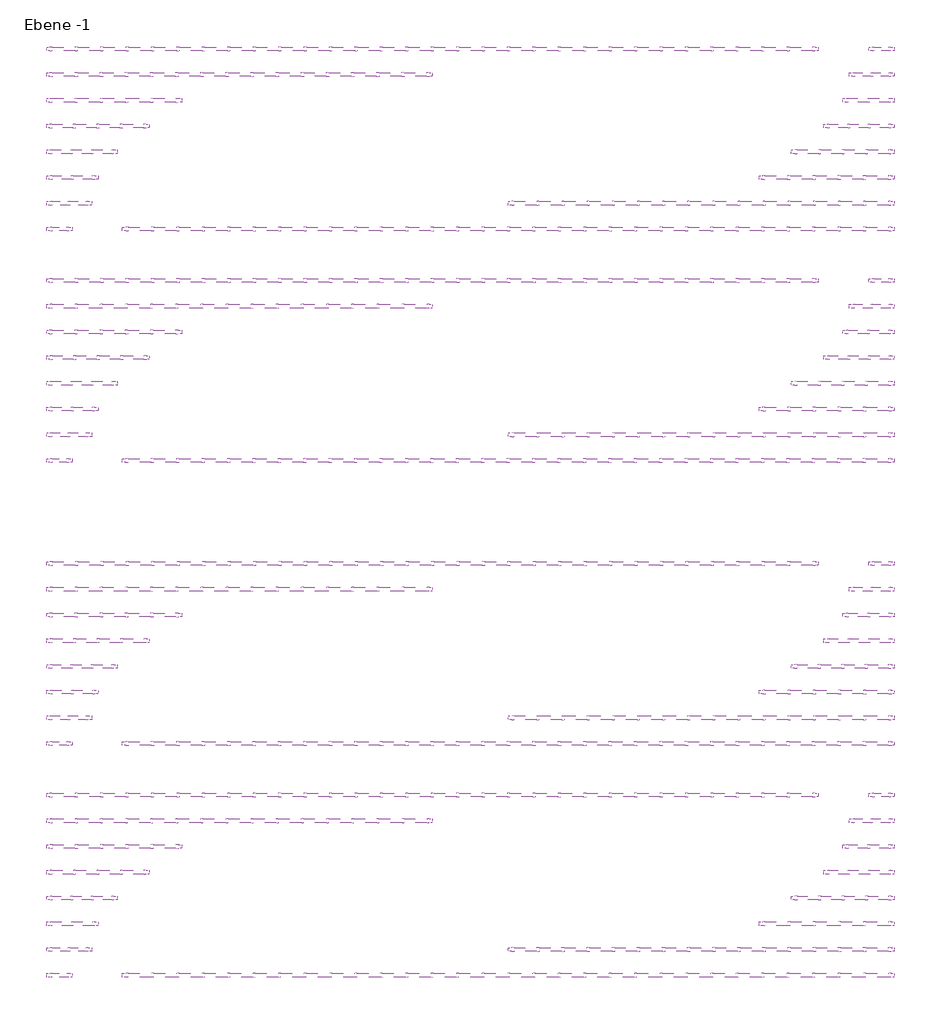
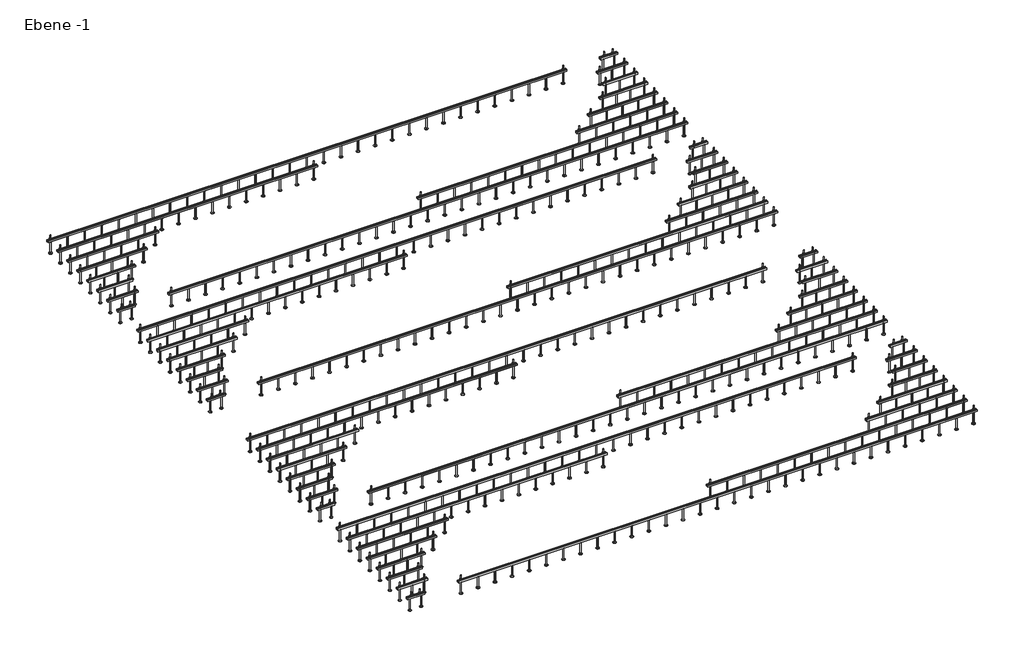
# One storey: 64 fasteners.
"""IFC4 building model written with IfcOpenShell, lengths in millimetres."""

from ifc_helpers import new_model, si_unit, origin, place, context, project, spatial, transform, mapped, element, save
from components import fastener_c0e64843, fastener_a951ed44, fastener_b79830a4, fastener_5d54877c, fastener_104148dd, fastener_9a79e27e, fastener_173d111a, fastener_f195b12c, fastener_2c23095b, fastener_91ec93cb, fastener_dfc049ad

model = new_model("IFC4")

# Units and contexts
model_context = context("Model", 3, world=origin())
ifc_project = project(units=[si_unit("LENGTHUNIT", "METRE", prefix="MILLI")], contexts=[model_context])

# Site, building, storey
site = spatial("IfcSite", under=ifc_project)
building = spatial("IfcBuilding", under=site)
storey = spatial("IfcBuildingStorey", under=building, Name="Ebene -1", Elevation=-3000.0)

# Fasteners
placement = place(None, origin())
fastener_shape = fastener_c0e64843(model_context)
element("IfcFastener", 1, ObjectType="JXA(-PC) JORDAHL® toothed channels : JXA(-PC) L=200 mm", at=placement, inside=storey, context=model_context, shape_type="MappedRepresentation", body=[
    mapped(fastener_shape, transform((-2869.3238339, 568.7317284, 0.0), x_axis=(1.0, 0.0, 0.0), y_axis=(0.0, 1.0, 0.0), z_axis=(0.0, 0.0, 1.0))),
])
element("IfcFastener", 2, ObjectType="JXA(-PC) JORDAHL® toothed channels : JXA(-PC) L=200 mm", at=placement, inside=storey, context=model_context, shape_type="MappedRepresentation", body=[
    mapped(fastener_shape, transform((3720.6761661, 1968.7317284, 0.0), x_axis=(-1.0, 0.0, 0.0), y_axis=(0.0, -1.0, 0.0), z_axis=(0.0, 0.0, 1.0))),
])
element("IfcFastener", 3, ObjectType="JXA(-PC) JORDAHL® toothed channels : JXA(-PC) L=200 mm", at=placement, inside=storey, context=model_context, shape_type="MappedRepresentation", body=[
    mapped(fastener_shape, transform((-2869.3238339, 2368.7317284, 0.0), x_axis=(1.0, 0.0, 0.0), y_axis=(0.0, 1.0, 0.0), z_axis=(0.0, 0.0, 1.0))),
])
element("IfcFastener", 4, ObjectType="JXA(-PC) JORDAHL® toothed channels : JXA(-PC) L=200 mm", at=placement, inside=storey, context=model_context, shape_type="MappedRepresentation", body=[
    mapped(fastener_shape, transform((3520.6761661, 3768.7317284, 0.0), x_axis=(1.0, 0.0, 0.0), y_axis=(0.0, 1.0, 0.0), z_axis=(0.0, 0.0, 1.0))),
])
element("IfcFastener", 5, ObjectType="JXA(-PC) JORDAHL® toothed channels : JXA(-PC) L=200 mm", at=placement, inside=storey, context=model_context, shape_type="MappedRepresentation", body=[
    mapped(fastener_shape, transform((-2869.3238339, 4568.7317284, 0.0), x_axis=(1.0, 0.0, 0.0), y_axis=(0.0, 1.0, 0.0), z_axis=(0.0, 0.0, 1.0))),
])
element("IfcFastener", 6, ObjectType="JXA(-PC) JORDAHL® toothed channels : JXA(-PC) L=200 mm", at=placement, inside=storey, context=model_context, shape_type="MappedRepresentation", body=[
    mapped(fastener_shape, transform((3720.6761661, 5968.7317284, 0.0), x_axis=(-1.0, 0.0, 0.0), y_axis=(0.0, -1.0, 0.0), z_axis=(0.0, 0.0, 1.0))),
])
element("IfcFastener", 7, ObjectType="JXA(-PC) JORDAHL® toothed channels : JXA(-PC) L=200 mm", at=placement, inside=storey, context=model_context, shape_type="MappedRepresentation", body=[
    mapped(fastener_shape, transform((-2869.3238339, 6368.7317284, 0.0), x_axis=(1.0, 0.0, 0.0), y_axis=(0.0, 1.0, 0.0), z_axis=(0.0, 0.0, 1.0))),
])
element("IfcFastener", 8, ObjectType="JXA(-PC) JORDAHL® toothed channels : JXA(-PC) L=200 mm", at=placement, inside=storey, context=model_context, shape_type="MappedRepresentation", body=[
    mapped(fastener_shape, transform((3520.6761661, 7768.7317284, 0.0), x_axis=(1.0, 0.0, 0.0), y_axis=(0.0, 1.0, 0.0), z_axis=(0.0, 0.0, 1.0))),
])
fastener_2_shape = fastener_a951ed44(model_context)
element("IfcFastener", 9, ObjectType="JXA(-PC) JORDAHL® toothed channels : JXA(-PC) L=350 mm", at=placement, inside=storey, context=model_context, shape_type="MappedRepresentation", body=[
    mapped(fastener_2_shape, transform((-2869.3238339, 768.7317284, 0.0), x_axis=(1.0, 0.0, 0.0), y_axis=(0.0, 1.0, 0.0), z_axis=(0.0, 0.0, 1.0))),
])
element("IfcFastener", 10, ObjectType="JXA(-PC) JORDAHL® toothed channels : JXA(-PC) L=350 mm", at=placement, inside=storey, context=model_context, shape_type="MappedRepresentation", body=[
    mapped(fastener_2_shape, transform((3720.6761661, 1768.7317284, 0.0), x_axis=(-1.0, 0.0, 0.0), y_axis=(0.0, -1.0, 0.0), z_axis=(0.0, 0.0, 1.0))),
])
element("IfcFastener", 11, ObjectType="JXA(-PC) JORDAHL® toothed channels : JXA(-PC) L=350 mm", at=placement, inside=storey, context=model_context, shape_type="MappedRepresentation", body=[
    mapped(fastener_2_shape, transform((-2869.3238339, 2568.7317284, 0.0), x_axis=(1.0, 0.0, 0.0), y_axis=(0.0, 1.0, 0.0), z_axis=(0.0, 0.0, 1.0))),
])
element("IfcFastener", 12, ObjectType="JXA(-PC) JORDAHL® toothed channels : JXA(-PC) L=350 mm", at=placement, inside=storey, context=model_context, shape_type="MappedRepresentation", body=[
    mapped(fastener_2_shape, transform((3720.6761661, 3568.7317284, 0.0), x_axis=(-1.0, 0.0, 0.0), y_axis=(0.0, -1.0, 0.0), z_axis=(0.0, 0.0, 1.0))),
])
element("IfcFastener", 13, ObjectType="JXA(-PC) JORDAHL® toothed channels : JXA(-PC) L=350 mm", at=placement, inside=storey, context=model_context, shape_type="MappedRepresentation", body=[
    mapped(fastener_2_shape, transform((-2869.3238339, 4768.7317284, 0.0), x_axis=(1.0, 0.0, 0.0), y_axis=(0.0, 1.0, 0.0), z_axis=(0.0, 0.0, 1.0))),
])
element("IfcFastener", 14, ObjectType="JXA(-PC) JORDAHL® toothed channels : JXA(-PC) L=350 mm", at=placement, inside=storey, context=model_context, shape_type="MappedRepresentation", body=[
    mapped(fastener_2_shape, transform((3720.6761661, 5768.7317284, 0.0), x_axis=(-1.0, 0.0, 0.0), y_axis=(0.0, -1.0, 0.0), z_axis=(0.0, 0.0, 1.0))),
])
element("IfcFastener", 15, ObjectType="JXA(-PC) JORDAHL® toothed channels : JXA(-PC) L=350 mm", at=placement, inside=storey, context=model_context, shape_type="MappedRepresentation", body=[
    mapped(fastener_2_shape, transform((-2869.3238339, 6568.7317284, 0.0), x_axis=(1.0, 0.0, 0.0), y_axis=(0.0, 1.0, 0.0), z_axis=(0.0, 0.0, 1.0))),
])
element("IfcFastener", 16, ObjectType="JXA(-PC) JORDAHL® toothed channels : JXA(-PC) L=350 mm", at=placement, inside=storey, context=model_context, shape_type="MappedRepresentation", body=[
    mapped(fastener_2_shape, transform((3720.6761661, 7568.7317284, 0.0), x_axis=(-1.0, 0.0, 0.0), y_axis=(0.0, -1.0, 0.0), z_axis=(0.0, 0.0, 1.0))),
])
fastener_3_shape = fastener_b79830a4(model_context)
element("IfcFastener", 17, ObjectType="JXA(-PC) JORDAHL® toothed channels : JXA(-PC) L=400 mm", at=placement, inside=storey, context=model_context, shape_type="MappedRepresentation", body=[
    mapped(fastener_3_shape, transform((-2869.3238339, 968.7317284, 0.0), x_axis=(1.0, 0.0, 0.0), y_axis=(0.0, 1.0, 0.0), z_axis=(0.0, 0.0, 1.0))),
])
element("IfcFastener", 18, ObjectType="JXA(-PC) JORDAHL® toothed channels : JXA(-PC) L=400 mm", at=placement, inside=storey, context=model_context, shape_type="MappedRepresentation", body=[
    mapped(fastener_3_shape, transform((3720.6761661, 1568.7317284, 0.0), x_axis=(-1.0, 0.0, 0.0), y_axis=(0.0, -1.0, 0.0), z_axis=(0.0, 0.0, 1.0))),
])
element("IfcFastener", 19, ObjectType="JXA(-PC) JORDAHL® toothed channels : JXA(-PC) L=400 mm", at=placement, inside=storey, context=model_context, shape_type="MappedRepresentation", body=[
    mapped(fastener_3_shape, transform((-2869.3238339, 2768.7317284, 0.0), x_axis=(1.0, 0.0, 0.0), y_axis=(0.0, 1.0, 0.0), z_axis=(0.0, 0.0, 1.0))),
])
element("IfcFastener", 20, ObjectType="JXA(-PC) JORDAHL® toothed channels : JXA(-PC) L=400 mm", at=placement, inside=storey, context=model_context, shape_type="MappedRepresentation", body=[
    mapped(fastener_3_shape, transform((3720.6761661, 3368.7317284, 0.0), x_axis=(-1.0, 0.0, 0.0), y_axis=(0.0, -1.0, 0.0), z_axis=(0.0, 0.0, 1.0))),
])
element("IfcFastener", 21, ObjectType="JXA(-PC) JORDAHL® toothed channels : JXA(-PC) L=400 mm", at=placement, inside=storey, context=model_context, shape_type="MappedRepresentation", body=[
    mapped(fastener_3_shape, transform((-2869.3238339, 4968.7317284, 0.0), x_axis=(1.0, 0.0, 0.0), y_axis=(0.0, 1.0, 0.0), z_axis=(0.0, 0.0, 1.0))),
])
element("IfcFastener", 22, ObjectType="JXA(-PC) JORDAHL® toothed channels : JXA(-PC) L=400 mm", at=placement, inside=storey, context=model_context, shape_type="MappedRepresentation", body=[
    mapped(fastener_3_shape, transform((3720.6761661, 5568.7317284, 0.0), x_axis=(-1.0, 0.0, 0.0), y_axis=(0.0, -1.0, 0.0), z_axis=(0.0, 0.0, 1.0))),
])
element("IfcFastener", 23, ObjectType="JXA(-PC) JORDAHL® toothed channels : JXA(-PC) L=400 mm", at=placement, inside=storey, context=model_context, shape_type="MappedRepresentation", body=[
    mapped(fastener_3_shape, transform((-2869.3238339, 6768.7317284, 0.0), x_axis=(1.0, 0.0, 0.0), y_axis=(0.0, 1.0, 0.0), z_axis=(0.0, 0.0, 1.0))),
])
element("IfcFastener", 24, ObjectType="JXA(-PC) JORDAHL® toothed channels : JXA(-PC) L=400 mm", at=placement, inside=storey, context=model_context, shape_type="MappedRepresentation", body=[
    mapped(fastener_3_shape, transform((3720.6761661, 7368.7317284, 0.0), x_axis=(-1.0, 0.0, 0.0), y_axis=(0.0, -1.0, 0.0), z_axis=(0.0, 0.0, 1.0))),
])
fastener_4_shape = fastener_5d54877c(model_context)
element("IfcFastener", 25, ObjectType="JXA(-PC) JORDAHL® toothed channels : JXA(-PC) L=550 mm", at=placement, inside=storey, context=model_context, shape_type="MappedRepresentation", body=[
    mapped(fastener_4_shape, transform((-2869.3238339, 1168.7317284, 0.0), x_axis=(1.0, 0.0, 0.0), y_axis=(0.0, 1.0, 0.0), z_axis=(0.0, 0.0, 1.0))),
])
element("IfcFastener", 26, ObjectType="JXA(-PC) JORDAHL® toothed channels : JXA(-PC) L=550 mm", at=placement, inside=storey, context=model_context, shape_type="MappedRepresentation", body=[
    mapped(fastener_4_shape, transform((3720.6761661, 1368.7317284, 0.0), x_axis=(-1.0, 0.0, 0.0), y_axis=(0.0, -1.0, 0.0), z_axis=(0.0, 0.0, 1.0))),
])
element("IfcFastener", 27, ObjectType="JXA(-PC) JORDAHL® toothed channels : JXA(-PC) L=550 mm", at=placement, inside=storey, context=model_context, shape_type="MappedRepresentation", body=[
    mapped(fastener_4_shape, transform((-2869.3238339, 2968.7317284, 0.0), x_axis=(1.0, 0.0, 0.0), y_axis=(0.0, 1.0, 0.0), z_axis=(0.0, 0.0, 1.0))),
])
element("IfcFastener", 28, ObjectType="JXA(-PC) JORDAHL® toothed channels : JXA(-PC) L=550 mm", at=placement, inside=storey, context=model_context, shape_type="MappedRepresentation", body=[
    mapped(fastener_4_shape, transform((3720.6761661, 3168.7317284, 0.0), x_axis=(-1.0, 0.0, 0.0), y_axis=(0.0, -1.0, 0.0), z_axis=(0.0, 0.0, 1.0))),
])
element("IfcFastener", 29, ObjectType="JXA(-PC) JORDAHL® toothed channels : JXA(-PC) L=550 mm", at=placement, inside=storey, context=model_context, shape_type="MappedRepresentation", body=[
    mapped(fastener_4_shape, transform((-2869.3238339, 5168.7317284, 0.0), x_axis=(1.0, 0.0, 0.0), y_axis=(0.0, 1.0, 0.0), z_axis=(0.0, 0.0, 1.0))),
])
element("IfcFastener", 30, ObjectType="JXA(-PC) JORDAHL® toothed channels : JXA(-PC) L=550 mm", at=placement, inside=storey, context=model_context, shape_type="MappedRepresentation", body=[
    mapped(fastener_4_shape, transform((3720.6761661, 5368.7317284, 0.0), x_axis=(-1.0, 0.0, 0.0), y_axis=(0.0, -1.0, 0.0), z_axis=(0.0, 0.0, 1.0))),
])
element("IfcFastener", 31, ObjectType="JXA(-PC) JORDAHL® toothed channels : JXA(-PC) L=550 mm", at=placement, inside=storey, context=model_context, shape_type="MappedRepresentation", body=[
    mapped(fastener_4_shape, transform((-2869.3238339, 6968.7317284, 0.0), x_axis=(1.0, 0.0, 0.0), y_axis=(0.0, 1.0, 0.0), z_axis=(0.0, 0.0, 1.0))),
])
element("IfcFastener", 32, ObjectType="JXA(-PC) JORDAHL® toothed channels : JXA(-PC) L=550 mm", at=placement, inside=storey, context=model_context, shape_type="MappedRepresentation", body=[
    mapped(fastener_4_shape, transform((3720.6761661, 7168.7317284, 0.0), x_axis=(-1.0, 0.0, 0.0), y_axis=(0.0, -1.0, 0.0), z_axis=(0.0, 0.0, 1.0))),
])
fastener_5_shape = fastener_104148dd(model_context)
element("IfcFastener", 33, ObjectType="JXA(-PC) JORDAHL® toothed channels : JXA(-PC) L=800 mm", at=placement, inside=storey, context=model_context, shape_type="MappedRepresentation", body=[
    mapped(fastener_5_shape, transform((-2869.3238339, 1368.7317284, 0.0), x_axis=(1.0, 0.0, 0.0), y_axis=(0.0, 1.0, 0.0), z_axis=(0.0, 0.0, 1.0))),
])
element("IfcFastener", 34, ObjectType="JXA(-PC) JORDAHL® toothed channels : JXA(-PC) L=800 mm", at=placement, inside=storey, context=model_context, shape_type="MappedRepresentation", body=[
    mapped(fastener_5_shape, transform((3720.6761661, 1168.7317284, 0.0), x_axis=(-1.0, 0.0, 0.0), y_axis=(0.0, -1.0, 0.0), z_axis=(0.0, 0.0, 1.0))),
])
element("IfcFastener", 35, ObjectType="JXA(-PC) JORDAHL® toothed channels : JXA(-PC) L=800 mm", at=placement, inside=storey, context=model_context, shape_type="MappedRepresentation", body=[
    mapped(fastener_5_shape, transform((-2869.3238339, 3168.7317284, 0.0), x_axis=(1.0, 0.0, 0.0), y_axis=(0.0, 1.0, 0.0), z_axis=(0.0, 0.0, 1.0))),
])
element("IfcFastener", 36, ObjectType="JXA(-PC) JORDAHL® toothed channels : JXA(-PC) L=800 mm", at=placement, inside=storey, context=model_context, shape_type="MappedRepresentation", body=[
    mapped(fastener_5_shape, transform((3720.6761661, 2968.7317284, 0.0), x_axis=(-1.0, 0.0, 0.0), y_axis=(0.0, -1.0, 0.0), z_axis=(0.0, 0.0, 1.0))),
])
element("IfcFastener", 37, ObjectType="JXA(-PC) JORDAHL® toothed channels : JXA(-PC) L=800 mm", at=placement, inside=storey, context=model_context, shape_type="MappedRepresentation", body=[
    mapped(fastener_5_shape, transform((-2869.3238339, 5368.7317284, 0.0), x_axis=(1.0, 0.0, 0.0), y_axis=(0.0, 1.0, 0.0), z_axis=(0.0, 0.0, 1.0))),
])
element("IfcFastener", 38, ObjectType="JXA(-PC) JORDAHL® toothed channels : JXA(-PC) L=800 mm", at=placement, inside=storey, context=model_context, shape_type="MappedRepresentation", body=[
    mapped(fastener_5_shape, transform((3720.6761661, 5168.7317284, 0.0), x_axis=(-1.0, 0.0, 0.0), y_axis=(0.0, -1.0, 0.0), z_axis=(0.0, 0.0, 1.0))),
])
element("IfcFastener", 39, ObjectType="JXA(-PC) JORDAHL® toothed channels : JXA(-PC) L=800 mm", at=placement, inside=storey, context=model_context, shape_type="MappedRepresentation", body=[
    mapped(fastener_5_shape, transform((-2869.3238339, 7168.7317284, 0.0), x_axis=(1.0, 0.0, 0.0), y_axis=(0.0, 1.0, 0.0), z_axis=(0.0, 0.0, 1.0))),
])
element("IfcFastener", 40, ObjectType="JXA(-PC) JORDAHL® toothed channels : JXA(-PC) L=800 mm", at=placement, inside=storey, context=model_context, shape_type="MappedRepresentation", body=[
    mapped(fastener_5_shape, transform((3720.6761661, 6968.7317284, 0.0), x_axis=(-1.0, 0.0, 0.0), y_axis=(0.0, -1.0, 0.0), z_axis=(0.0, 0.0, 1.0))),
])
fastener_6_shape = fastener_9a79e27e(model_context)
element("IfcFastener", 41, ObjectType="JXA(-PC) JORDAHL® toothed channels : JXA(-PC) L=1050 mm", at=placement, inside=storey, context=model_context, shape_type="MappedRepresentation", body=[
    mapped(fastener_6_shape, transform((-2869.3238339, 1568.7317284, 0.0), x_axis=(1.0, 0.0, 0.0), y_axis=(0.0, 1.0, 0.0), z_axis=(0.0, 0.0, 1.0))),
])
element("IfcFastener", 42, ObjectType="JXA(-PC) JORDAHL® toothed channels : JXA(-PC) L=1050 mm", at=placement, inside=storey, context=model_context, shape_type="MappedRepresentation", body=[
    mapped(fastener_6_shape, transform((3720.6761661, 968.7317284, 0.0), x_axis=(-1.0, 0.0, 0.0), y_axis=(0.0, -1.0, 0.0), z_axis=(0.0, 0.0, 1.0))),
])
element("IfcFastener", 43, ObjectType="JXA(-PC) JORDAHL® toothed channels : JXA(-PC) L=1050 mm", at=placement, inside=storey, context=model_context, shape_type="MappedRepresentation", body=[
    mapped(fastener_6_shape, transform((-2869.3238339, 3368.7317284, 0.0), x_axis=(1.0, 0.0, 0.0), y_axis=(0.0, 1.0, 0.0), z_axis=(0.0, 0.0, 1.0))),
])
element("IfcFastener", 44, ObjectType="JXA(-PC) JORDAHL® toothed channels : JXA(-PC) L=1050 mm", at=placement, inside=storey, context=model_context, shape_type="MappedRepresentation", body=[
    mapped(fastener_6_shape, transform((3720.6761661, 2768.7317284, 0.0), x_axis=(-1.0, 0.0, 0.0), y_axis=(0.0, -1.0, 0.0), z_axis=(0.0, 0.0, 1.0))),
])
element("IfcFastener", 45, ObjectType="JXA(-PC) JORDAHL® toothed channels : JXA(-PC) L=1050 mm", at=placement, inside=storey, context=model_context, shape_type="MappedRepresentation", body=[
    mapped(fastener_6_shape, transform((-2869.3238339, 5568.7317284, 0.0), x_axis=(1.0, 0.0, 0.0), y_axis=(0.0, 1.0, 0.0), z_axis=(0.0, 0.0, 1.0))),
])
element("IfcFastener", 46, ObjectType="JXA(-PC) JORDAHL® toothed channels : JXA(-PC) L=1050 mm", at=placement, inside=storey, context=model_context, shape_type="MappedRepresentation", body=[
    mapped(fastener_6_shape, transform((3720.6761661, 4968.7317284, 0.0), x_axis=(-1.0, 0.0, 0.0), y_axis=(0.0, -1.0, 0.0), z_axis=(0.0, 0.0, 1.0))),
])
element("IfcFastener", 47, ObjectType="JXA(-PC) JORDAHL® toothed channels : JXA(-PC) L=1050 mm", at=placement, inside=storey, context=model_context, shape_type="MappedRepresentation", body=[
    mapped(fastener_6_shape, transform((-2869.3238339, 7368.7317284, 0.0), x_axis=(1.0, 0.0, 0.0), y_axis=(0.0, 1.0, 0.0), z_axis=(0.0, 0.0, 1.0))),
])
element("IfcFastener", 48, ObjectType="JXA(-PC) JORDAHL® toothed channels : JXA(-PC) L=1050 mm", at=placement, inside=storey, context=model_context, shape_type="MappedRepresentation", body=[
    mapped(fastener_6_shape, transform((3720.6761661, 6768.7317284, 0.0), x_axis=(-1.0, 0.0, 0.0), y_axis=(0.0, -1.0, 0.0), z_axis=(0.0, 0.0, 1.0))),
])
fastener_7_shape = fastener_173d111a(model_context)
fastener_8_shape = fastener_f195b12c(model_context)
element("IfcFastener", 49, ObjectType="JXA(-PC) JORDAHL® toothed channels : JXA(-PC) L=3000 mm", at=placement, inside=storey, context=model_context, shape_type="MappedRepresentation", body=[
    mapped(fastener_7_shape, transform((-2869.3238339, 1768.7317284, 0.0), x_axis=(1.0, 0.0, 0.0), y_axis=(0.0, 1.0, 0.0), z_axis=(0.0, 0.0, 1.0))),
    mapped(fastener_8_shape, transform((-2869.3238339, 1768.7317284, 0.0), x_axis=(1.0, 0.0, 0.0), y_axis=(0.0, 1.0, 0.0), z_axis=(0.0, 0.0, 1.0))),
])
element("IfcFastener", 50, ObjectType="JXA(-PC) JORDAHL® toothed channels : JXA(-PC) L=3000 mm", at=placement, inside=storey, context=model_context, shape_type="MappedRepresentation", body=[
    mapped(fastener_7_shape, transform((3720.6761661, 768.7317284, 0.0), x_axis=(-1.0, 0.0, 0.0), y_axis=(0.0, -1.0, 0.0), z_axis=(0.0, 0.0, 1.0))),
    mapped(fastener_8_shape, transform((3720.6761661, 768.7317284, 0.0), x_axis=(-1.0, 0.0, 0.0), y_axis=(0.0, -1.0, 0.0), z_axis=(0.0, 0.0, 1.0))),
])
element("IfcFastener", 51, ObjectType="JXA(-PC) JORDAHL® toothed channels : JXA(-PC) L=3000 mm", at=placement, inside=storey, context=model_context, shape_type="MappedRepresentation", body=[
    mapped(fastener_7_shape, transform((-2869.3238339, 3568.7317284, 0.0), x_axis=(1.0, 0.0, 0.0), y_axis=(0.0, 1.0, 0.0), z_axis=(0.0, 0.0, 1.0))),
    mapped(fastener_8_shape, transform((-2869.3238339, 3568.7317284, 0.0), x_axis=(1.0, 0.0, 0.0), y_axis=(0.0, 1.0, 0.0), z_axis=(0.0, 0.0, 1.0))),
])
element("IfcFastener", 52, ObjectType="JXA(-PC) JORDAHL® toothed channels : JXA(-PC) L=3000 mm", at=placement, inside=storey, context=model_context, shape_type="MappedRepresentation", body=[
    mapped(fastener_7_shape, transform((3720.6761661, 2568.7317284, 0.0), x_axis=(-1.0, 0.0, 0.0), y_axis=(0.0, -1.0, 0.0), z_axis=(0.0, 0.0, 1.0))),
    mapped(fastener_8_shape, transform((3720.6761661, 2568.7317284, 0.0), x_axis=(-1.0, 0.0, 0.0), y_axis=(0.0, -1.0, 0.0), z_axis=(0.0, 0.0, 1.0))),
])
element("IfcFastener", 53, ObjectType="JXA(-PC) JORDAHL® toothed channels : JXA(-PC) L=3000 mm", at=placement, inside=storey, context=model_context, shape_type="MappedRepresentation", body=[
    mapped(fastener_7_shape, transform((-2869.3238339, 5768.7317284, 0.0), x_axis=(1.0, 0.0, 0.0), y_axis=(0.0, 1.0, 0.0), z_axis=(0.0, 0.0, 1.0))),
    mapped(fastener_8_shape, transform((-2869.3238339, 5768.7317284, 0.0), x_axis=(1.0, 0.0, 0.0), y_axis=(0.0, 1.0, 0.0), z_axis=(0.0, 0.0, 1.0))),
])
element("IfcFastener", 54, ObjectType="JXA(-PC) JORDAHL® toothed channels : JXA(-PC) L=3000 mm", at=placement, inside=storey, context=model_context, shape_type="MappedRepresentation", body=[
    mapped(fastener_7_shape, transform((3720.6761661, 4768.7317284, 0.0), x_axis=(-1.0, 0.0, 0.0), y_axis=(0.0, -1.0, 0.0), z_axis=(0.0, 0.0, 1.0))),
    mapped(fastener_8_shape, transform((3720.6761661, 4768.7317284, 0.0), x_axis=(-1.0, 0.0, 0.0), y_axis=(0.0, -1.0, 0.0), z_axis=(0.0, 0.0, 1.0))),
])
element("IfcFastener", 55, ObjectType="JXA(-PC) JORDAHL® toothed channels : JXA(-PC) L=3000 mm", at=placement, inside=storey, context=model_context, shape_type="MappedRepresentation", body=[
    mapped(fastener_7_shape, transform((-2869.3238339, 7568.7317284, 0.0), x_axis=(1.0, 0.0, 0.0), y_axis=(0.0, 1.0, 0.0), z_axis=(0.0, 0.0, 1.0))),
    mapped(fastener_8_shape, transform((-2869.3238339, 7568.7317284, 0.0), x_axis=(1.0, 0.0, 0.0), y_axis=(0.0, 1.0, 0.0), z_axis=(0.0, 0.0, 1.0))),
])
element("IfcFastener", 56, ObjectType="JXA(-PC) JORDAHL® toothed channels : JXA(-PC) L=3000 mm", at=placement, inside=storey, context=model_context, shape_type="MappedRepresentation", body=[
    mapped(fastener_7_shape, transform((3720.6761661, 6568.7317284, 0.0), x_axis=(-1.0, 0.0, 0.0), y_axis=(0.0, -1.0, 0.0), z_axis=(0.0, 0.0, 1.0))),
    mapped(fastener_8_shape, transform((3720.6761661, 6568.7317284, 0.0), x_axis=(-1.0, 0.0, 0.0), y_axis=(0.0, -1.0, 0.0), z_axis=(0.0, 0.0, 1.0))),
])
fastener_9_shape = fastener_2c23095b(model_context)
fastener_10_shape = fastener_91ec93cb(model_context)
fastener_11_shape = fastener_dfc049ad(model_context)
element("IfcFastener", 57, ObjectType="JXA(-PC) JORDAHL® toothed channels : JXA(-PC) L=6000 mm", at=placement, inside=storey, context=model_context, shape_type="MappedRepresentation", body=[
    mapped(fastener_9_shape, transform((-2869.3238339, 1968.7317284, 0.0), x_axis=(1.0, 0.0, 0.0), y_axis=(0.0, 1.0, 0.0), z_axis=(0.0, 0.0, 1.0))),
    mapped(fastener_10_shape, transform((-2869.3238339, 1968.7317284, 0.0), x_axis=(1.0, 0.0, 0.0), y_axis=(0.0, 1.0, 0.0), z_axis=(0.0, 0.0, 1.0))),
    mapped(fastener_11_shape, transform((-2869.3238339, 1968.7317284, 0.0), x_axis=(1.0, 0.0, 0.0), y_axis=(0.0, 1.0, 0.0), z_axis=(0.0, 0.0, 1.0))),
])
element("IfcFastener", 58, ObjectType="JXA(-PC) JORDAHL® toothed channels : JXA(-PC) L=6000 mm", at=placement, inside=storey, context=model_context, shape_type="MappedRepresentation", body=[
    mapped(fastener_9_shape, transform((3720.6761661, 568.7317284, 0.0), x_axis=(-1.0, 0.0, 0.0), y_axis=(0.0, -1.0, 0.0), z_axis=(0.0, 0.0, 1.0))),
    mapped(fastener_10_shape, transform((3720.6761661, 568.7317284, 0.0), x_axis=(-1.0, 0.0, 0.0), y_axis=(0.0, -1.0, 0.0), z_axis=(0.0, 0.0, 1.0))),
    mapped(fastener_11_shape, transform((3720.6761661, 568.7317284, 0.0), x_axis=(-1.0, 0.0, 0.0), y_axis=(0.0, -1.0, 0.0), z_axis=(0.0, 0.0, 1.0))),
])
element("IfcFastener", 59, ObjectType="JXA(-PC) JORDAHL® toothed channels : JXA(-PC) L=6000 mm", at=placement, inside=storey, context=model_context, shape_type="MappedRepresentation", body=[
    mapped(fastener_9_shape, transform((-2869.3238339, 3768.7317284, 0.0), x_axis=(1.0, 0.0, 0.0), y_axis=(0.0, 1.0, 0.0), z_axis=(0.0, 0.0, 1.0))),
    mapped(fastener_10_shape, transform((-2869.3238339, 3768.7317284, 0.0), x_axis=(1.0, 0.0, 0.0), y_axis=(0.0, 1.0, 0.0), z_axis=(0.0, 0.0, 1.0))),
    mapped(fastener_11_shape, transform((-2869.3238339, 3768.7317284, 0.0), x_axis=(1.0, 0.0, 0.0), y_axis=(0.0, 1.0, 0.0), z_axis=(0.0, 0.0, 1.0))),
])
element("IfcFastener", 60, ObjectType="JXA(-PC) JORDAHL® toothed channels : JXA(-PC) L=6000 mm", at=placement, inside=storey, context=model_context, shape_type="MappedRepresentation", body=[
    mapped(fastener_9_shape, transform((3720.6761661, 2368.7317284, 0.0), x_axis=(-1.0, 0.0, 0.0), y_axis=(0.0, -1.0, 0.0), z_axis=(0.0, 0.0, 1.0))),
    mapped(fastener_10_shape, transform((3720.6761661, 2368.7317284, 0.0), x_axis=(-1.0, 0.0, 0.0), y_axis=(0.0, -1.0, 0.0), z_axis=(0.0, 0.0, 1.0))),
    mapped(fastener_11_shape, transform((3720.6761661, 2368.7317284, 0.0), x_axis=(-1.0, 0.0, 0.0), y_axis=(0.0, -1.0, 0.0), z_axis=(0.0, 0.0, 1.0))),
])
element("IfcFastener", 61, ObjectType="JXA(-PC) JORDAHL® toothed channels : JXA(-PC) L=6000 mm", at=placement, inside=storey, context=model_context, shape_type="MappedRepresentation", body=[
    mapped(fastener_9_shape, transform((-2869.3238339, 5968.7317284, 0.0), x_axis=(1.0, 0.0, 0.0), y_axis=(0.0, 1.0, 0.0), z_axis=(0.0, 0.0, 1.0))),
    mapped(fastener_10_shape, transform((-2869.3238339, 5968.7317284, 0.0), x_axis=(1.0, 0.0, 0.0), y_axis=(0.0, 1.0, 0.0), z_axis=(0.0, 0.0, 1.0))),
    mapped(fastener_11_shape, transform((-2869.3238339, 5968.7317284, 0.0), x_axis=(1.0, 0.0, 0.0), y_axis=(0.0, 1.0, 0.0), z_axis=(0.0, 0.0, 1.0))),
])
element("IfcFastener", 62, ObjectType="JXA(-PC) JORDAHL® toothed channels : JXA(-PC) L=6000 mm", at=placement, inside=storey, context=model_context, shape_type="MappedRepresentation", body=[
    mapped(fastener_9_shape, transform((3720.6761661, 4568.7317284, 0.0), x_axis=(-1.0, 0.0, 0.0), y_axis=(0.0, -1.0, 0.0), z_axis=(0.0, 0.0, 1.0))),
    mapped(fastener_10_shape, transform((3720.6761661, 4568.7317284, 0.0), x_axis=(-1.0, 0.0, 0.0), y_axis=(0.0, -1.0, 0.0), z_axis=(0.0, 0.0, 1.0))),
    mapped(fastener_11_shape, transform((3720.6761661, 4568.7317284, 0.0), x_axis=(-1.0, 0.0, 0.0), y_axis=(0.0, -1.0, 0.0), z_axis=(0.0, 0.0, 1.0))),
])
element("IfcFastener", 63, ObjectType="JXA(-PC) JORDAHL® toothed channels : JXA(-PC) L=6000 mm", at=placement, inside=storey, context=model_context, shape_type="MappedRepresentation", body=[
    mapped(fastener_9_shape, transform((-2869.3238339, 7768.7317284, 0.0), x_axis=(1.0, 0.0, 0.0), y_axis=(0.0, 1.0, 0.0), z_axis=(0.0, 0.0, 1.0))),
    mapped(fastener_10_shape, transform((-2869.3238339, 7768.7317284, 0.0), x_axis=(1.0, 0.0, 0.0), y_axis=(0.0, 1.0, 0.0), z_axis=(0.0, 0.0, 1.0))),
    mapped(fastener_11_shape, transform((-2869.3238339, 7768.7317284, 0.0), x_axis=(1.0, 0.0, 0.0), y_axis=(0.0, 1.0, 0.0), z_axis=(0.0, 0.0, 1.0))),
])
element("IfcFastener", 64, ObjectType="JXA(-PC) JORDAHL® toothed channels : JXA(-PC) L=6000 mm", at=placement, inside=storey, context=model_context, shape_type="MappedRepresentation", body=[
    mapped(fastener_9_shape, transform((3720.6761661, 6368.7317284, 0.0), x_axis=(-1.0, 0.0, 0.0), y_axis=(0.0, -1.0, 0.0), z_axis=(0.0, 0.0, 1.0))),
    mapped(fastener_10_shape, transform((3720.6761661, 6368.7317284, 0.0), x_axis=(-1.0, 0.0, 0.0), y_axis=(0.0, -1.0, 0.0), z_axis=(0.0, 0.0, 1.0))),
    mapped(fastener_11_shape, transform((3720.6761661, 6368.7317284, 0.0), x_axis=(-1.0, 0.0, 0.0), y_axis=(0.0, -1.0, 0.0), z_axis=(0.0, 0.0, 1.0))),
])

save(model, "model.ifc")
